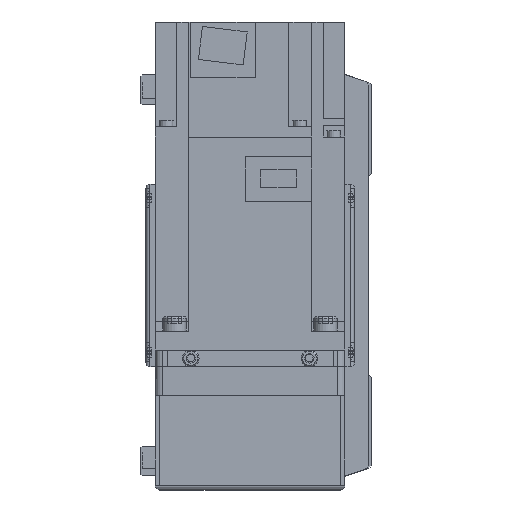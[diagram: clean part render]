
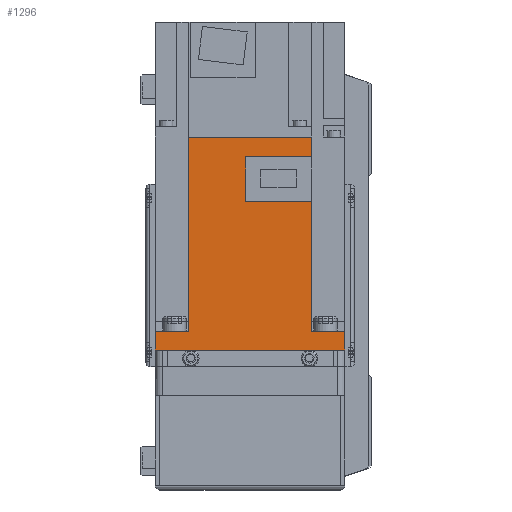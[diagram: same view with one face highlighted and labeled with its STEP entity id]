
A CAD part, left-side view. The second image highlights one B-rep face of the part: STEP entity #1296.
In plain terms, the highlighted planar face has unit normal (-1, 0, 0) as drawn and (1, 0, 0) by its records, which use the part's own axes.
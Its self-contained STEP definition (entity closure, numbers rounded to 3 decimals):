
#1296 = ADVANCED_FACE( '', ( #3605 ), #3606, .F. );
#3605 = FACE_OUTER_BOUND( '', #7347, .T. );
#3606 = PLANE( '', #7348 );
#7347 = EDGE_LOOP( '', ( #11122, #11123, #11124, #11125, #11126, #11127, #11128, #11129, #11130, #11131, #11132, #11133 ) );
#7348 = AXIS2_PLACEMENT_3D( '', #11134, #11135, #11136 );
#11122 = ORIENTED_EDGE( '', *, *, #20956, .F. );
#11123 = ORIENTED_EDGE( '', *, *, #20957, .F. );
#11124 = ORIENTED_EDGE( '', *, *, #20958, .F. );
#11125 = ORIENTED_EDGE( '', *, *, #20959, .T. );
#11126 = ORIENTED_EDGE( '', *, *, #20960, .F. );
#11127 = ORIENTED_EDGE( '', *, *, #20961, .T. );
#11128 = ORIENTED_EDGE( '', *, *, #20962, .T. );
#11129 = ORIENTED_EDGE( '', *, *, #20963, .F. );
#11130 = ORIENTED_EDGE( '', *, *, #20964, .F. );
#11131 = ORIENTED_EDGE( '', *, *, #20965, .F. );
#11132 = ORIENTED_EDGE( '', *, *, #20966, .F. );
#11133 = ORIENTED_EDGE( '', *, *, #20967, .F. );
#11134 = CARTESIAN_POINT( '', ( 40., 89.8, 40. ) );
#11135 = DIRECTION( '', ( -1., 0., 0. ) );
#11136 = DIRECTION( '', ( 0., 0., 1. ) );
#20956 = EDGE_CURVE( '', #24806, #24807, #24808, .T. );
#20957 = EDGE_CURVE( '', #24809, #24806, #24810, .T. );
#20958 = EDGE_CURVE( '', #24811, #24809, #24812, .T. );
#20959 = EDGE_CURVE( '', #24811, #24813, #24814, .T. );
#20960 = EDGE_CURVE( '', #24815, #24813, #24816, .T. );
#20961 = EDGE_CURVE( '', #24815, #24817, #24818, .T. );
#20962 = EDGE_CURVE( '', #24817, #24819, #24820, .T. );
#20963 = EDGE_CURVE( '', #24821, #24819, #24822, .T. );
#20964 = EDGE_CURVE( '', #24823, #24821, #24824, .T. );
#20965 = EDGE_CURVE( '', #24825, #24823, #24826, .T. );
#20966 = EDGE_CURVE( '', #24827, #24825, #24828, .T. );
#20967 = EDGE_CURVE( '', #24807, #24827, #24829, .T. );
#24806 = VERTEX_POINT( '', #30516 );
#24807 = VERTEX_POINT( '', #30517 );
#24808 = LINE( '', #30518, #30519 );
#24809 = VERTEX_POINT( '', #30520 );
#24810 = LINE( '', #30521, #30522 );
#24811 = VERTEX_POINT( '', #30523 );
#24812 = LINE( '', #30524, #30525 );
#24813 = VERTEX_POINT( '', #30526 );
#24814 = LINE( '', #30527, #30528 );
#24815 = VERTEX_POINT( '', #30529 );
#24816 = LINE( '', #30530, #30531 );
#24817 = VERTEX_POINT( '', #30532 );
#24818 = LINE( '', #30533, #30534 );
#24819 = VERTEX_POINT( '', #30535 );
#24820 = LINE( '', #30536, #30537 );
#24821 = VERTEX_POINT( '', #30538 );
#24822 = LINE( '', #30539, #30540 );
#24823 = VERTEX_POINT( '', #30541 );
#24824 = LINE( '', #30542, #30543 );
#24825 = VERTEX_POINT( '', #30544 );
#24826 = LINE( '', #30545, #30546 );
#24827 = VERTEX_POINT( '', #30547 );
#24828 = LINE( '', #30548, #30549 );
#24829 = LINE( '', #30550, #30551 );
#30516 = CARTESIAN_POINT( '', ( 40., 81.4, -25.95 ) );
#30517 = CARTESIAN_POINT( '', ( 40., 81.4, 1.8 ) );
#30518 = CARTESIAN_POINT( '', ( 40., 81.4, -26. ) );
#30519 = VECTOR( '', #39378, 1000. );
#30520 = CARTESIAN_POINT( '', ( 40., 89.8, -25.95 ) );
#30521 = CARTESIAN_POINT( '', ( 40., 158., -25.95 ) );
#30522 = VECTOR( '', #39379, 1000. );
#30523 = CARTESIAN_POINT( '', ( 40., 89.8, 25.95 ) );
#30524 = CARTESIAN_POINT( '', ( 40., 89.8, 40. ) );
#30525 = VECTOR( '', #39380, 1000. );
#30526 = CARTESIAN_POINT( '', ( 40., 8., 25.95 ) );
#30527 = CARTESIAN_POINT( '', ( 40., 158., 25.95 ) );
#30528 = VECTOR( '', #39381, 1000. );
#30529 = CARTESIAN_POINT( '', ( 40., 8., 40. ) );
#30530 = CARTESIAN_POINT( '', ( 40., 8., 40. ) );
#30531 = VECTOR( '', #39382, 1000. );
#30532 = CARTESIAN_POINT( '', ( 40., 0., 40. ) );
#30533 = CARTESIAN_POINT( '', ( 40., 89.8, 40. ) );
#30534 = VECTOR( '', #39383, 1000. );
#30535 = CARTESIAN_POINT( '', ( 40., 0., -40. ) );
#30536 = CARTESIAN_POINT( '', ( 40., 0., 40. ) );
#30537 = VECTOR( '', #39384, 1000. );
#30538 = CARTESIAN_POINT( '', ( 40., 8., -40. ) );
#30539 = CARTESIAN_POINT( '', ( 40., 89.8, -40. ) );
#30540 = VECTOR( '', #39385, 1000. );
#30541 = CARTESIAN_POINT( '', ( 40., 8., -25.95 ) );
#30542 = CARTESIAN_POINT( '', ( 40., 8., 40. ) );
#30543 = VECTOR( '', #39386, 1000. );
#30544 = CARTESIAN_POINT( '', ( 40., 62.8, -25.95 ) );
#30545 = CARTESIAN_POINT( '', ( 40., 158., -25.95 ) );
#30546 = VECTOR( '', #39387, 1000. );
#30547 = CARTESIAN_POINT( '', ( 40., 62.8, 1.8 ) );
#30548 = CARTESIAN_POINT( '', ( 40., 62.8, 1.8 ) );
#30549 = VECTOR( '', #39388, 1000. );
#30550 = CARTESIAN_POINT( '', ( 40., 81.4, 1.8 ) );
#30551 = VECTOR( '', #39389, 1000. );
#39378 = DIRECTION( '', ( 0., 0., 1. ) );
#39379 = DIRECTION( '', ( 0., -1., 0. ) );
#39380 = DIRECTION( '', ( 0., 0., -1. ) );
#39381 = DIRECTION( '', ( 0., -1., 0. ) );
#39382 = DIRECTION( '', ( 0., 0., -1. ) );
#39383 = DIRECTION( '', ( 0., -1., 0. ) );
#39384 = DIRECTION( '', ( 0., 0., -1. ) );
#39385 = DIRECTION( '', ( 0., -1., 0. ) );
#39386 = DIRECTION( '', ( 0., 0., -1. ) );
#39387 = DIRECTION( '', ( 0., -1., 0. ) );
#39388 = DIRECTION( '', ( 0., 0., -1. ) );
#39389 = DIRECTION( '', ( 0., -1., 0. ) );
